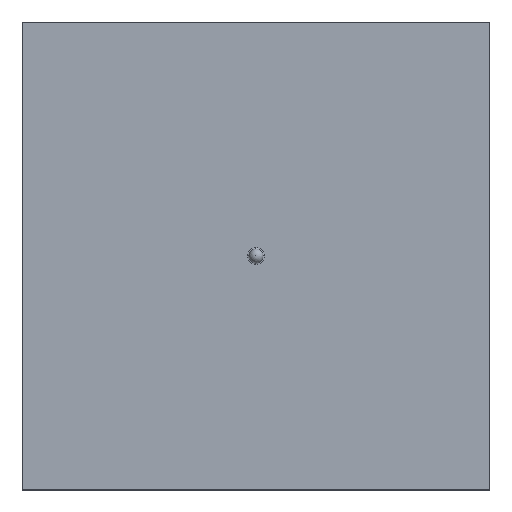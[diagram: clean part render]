
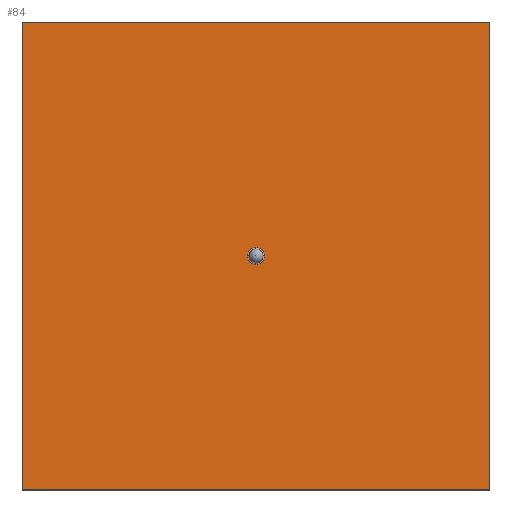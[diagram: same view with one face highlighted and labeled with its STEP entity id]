
A CAD part, top view. The second image highlights one B-rep face of the part: STEP entity #84.
In plain terms, the highlighted planar face has unit normal (0, 0, 1).
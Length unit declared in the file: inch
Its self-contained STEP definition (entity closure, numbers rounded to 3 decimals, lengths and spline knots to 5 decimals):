
#84=ADVANCED_FACE('',(#110,#111),#112,.T.);
#110=FACE_OUTER_BOUND('',#140,.T.);
#111=FACE_BOUND('',#141,.T.);
#112=PLANE('',#142);
#140=EDGE_LOOP('',(#203,#204,#205,#206));
#141=EDGE_LOOP('',(#207));
#142=AXIS2_PLACEMENT_3D('',#208,#209,#210);
#203=ORIENTED_EDGE('',*,*,#230,.T.);
#204=ORIENTED_EDGE('',*,*,#232,.T.);
#205=ORIENTED_EDGE('',*,*,#234,.T.);
#206=ORIENTED_EDGE('',*,*,#235,.T.);
#207=ORIENTED_EDGE('',*,*,#236,.F.);
#208=CARTESIAN_POINT('',(0.01166,1.10961,0.05));
#209=DIRECTION('',(0.0,0.0,1.0));
#210=DIRECTION('',(1.0,0.0,0.0));
#230=EDGE_CURVE('',#254,#256,#258,.T.);
#232=EDGE_CURVE('',#256,#259,#261,.T.);
#234=EDGE_CURVE('',#259,#262,#264,.T.);
#235=EDGE_CURVE('',#262,#254,#265,.T.);
#236=EDGE_CURVE('',#266,#266,#267,.T.);
#254=VERTEX_POINT('',#290);
#256=VERTEX_POINT('',#293);
#258=LINE('',#296,#297);
#259=VERTEX_POINT('',#298);
#261=LINE('',#301,#302);
#262=VERTEX_POINT('',#303);
#264=LINE('',#306,#307);
#265=LINE('',#308,#309);
#266=VERTEX_POINT('',#310);
#267=CIRCLE('',#311,0.03515);
#290=CARTESIAN_POINT('',(1.01166,0.10961,0.05));
#293=CARTESIAN_POINT('',(1.01166,2.10961,0.05));
#296=CARTESIAN_POINT('',(1.01166,1.10961,0.05));
#297=VECTOR('',#332,1.0);
#298=CARTESIAN_POINT('',(-0.98834,2.10961,0.05));
#301=CARTESIAN_POINT('',(0.01166,2.10961,0.05));
#302=VECTOR('',#334,1.0);
#303=CARTESIAN_POINT('',(-0.98834,0.10961,0.05));
#306=CARTESIAN_POINT('',(-0.98834,1.10961,0.05));
#307=VECTOR('',#336,1.0);
#308=CARTESIAN_POINT('',(0.01166,0.10961,0.05));
#309=VECTOR('',#337,1.0);
#310=CARTESIAN_POINT('',(0.01166,1.07446,0.05));
#311=AXIS2_PLACEMENT_3D('',#338,#339,#340);
#332=DIRECTION('',(0.0,1.0,0.0));
#334=DIRECTION('',(-1.0,0.0,0.0));
#336=DIRECTION('',(0.0,-1.0,0.0));
#337=DIRECTION('',(1.0,0.0,0.0));
#338=CARTESIAN_POINT('',(0.01166,1.10961,0.05));
#339=DIRECTION('',(0.0,-0.0,1.0));
#340=DIRECTION('',(0.0,1.0,0.0));
